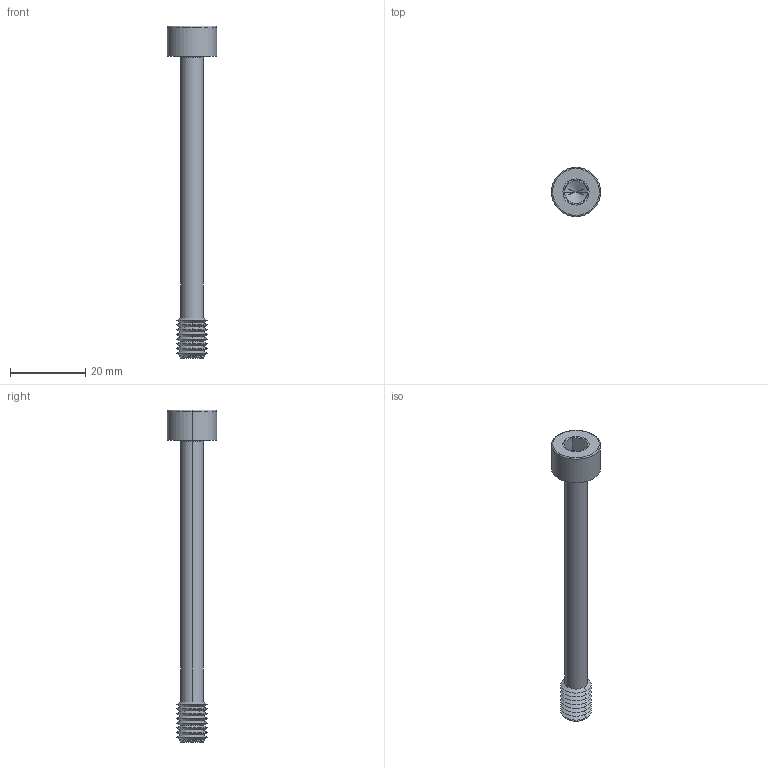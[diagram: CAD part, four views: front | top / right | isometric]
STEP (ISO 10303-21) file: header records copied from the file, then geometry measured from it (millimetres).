
FILE_DESCRIPTION (( 'STEP AP203' ), '1' );
FILE_NAME ('P0154.080-080-BL.step', '2024-06-17T11:33:06', ( '' ), ( '' ), 'SwSTEP 2.0', 'SolidWorks 2019', '' );
FILE_SCHEMA (( 'CONFIG_CONTROL_DESIGN' ));
Length unit declared in the file: millimetre
Products named in the file (1): P0154.080-080-BL
Bounding box: 13 x 13 x 88 mm (x, y, z)
Volume: 3217.3 mm3; surface area: 2472 mm2
Topology: 1 solids, 1 shells, 67 faces, 136 edges, 71 vertices
Faces by surface type: cone 44, plane 15, torus 4, cylinder 4
Entity records: 1787 total; most frequent: DIRECTION 332, CARTESIAN_POINT 299, ORIENTED_EDGE 268, AXIS2_PLACEMENT_3D 136, EDGE_CURVE 134, VERTEX_POINT 71, EDGE_LOOP 69, CIRCLE 68
